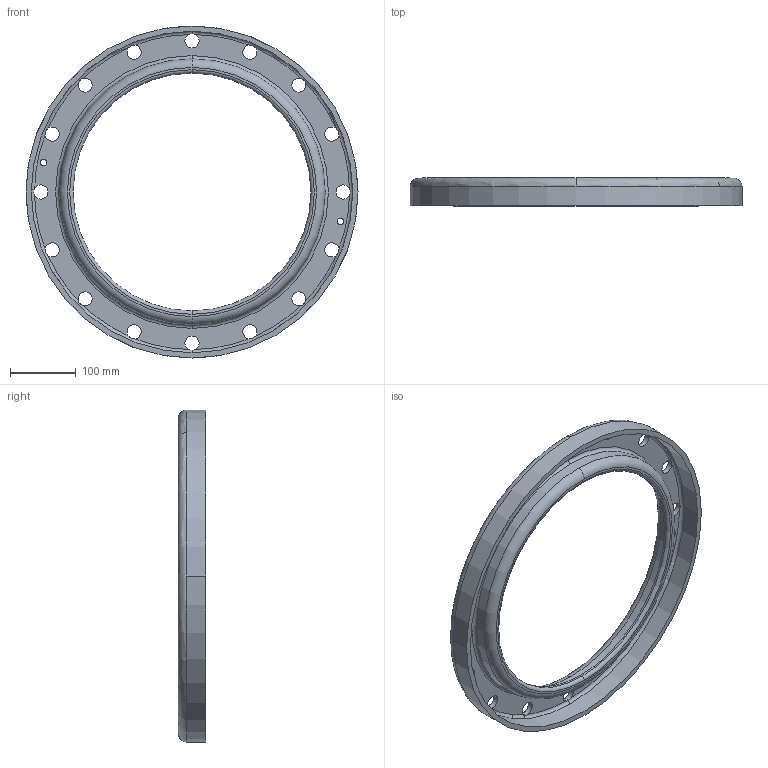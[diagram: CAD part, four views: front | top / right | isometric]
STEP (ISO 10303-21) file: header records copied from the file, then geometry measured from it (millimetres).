
FILE_DESCRIPTION(('STEP AP214'),'1');
FILE_NAME('Losflansch-DN350.stp','2023-07-13T07:27:03',(' '),(' '),'Spatial InterOp 3D',' ',' ');
FILE_SCHEMA(('automotive_design'));
Length unit declared in the file: millimetre
Products named in the file (2): 3D-Arbeitsebene
Assembly tree (1 placements, depth 2):
  3D-Arbeitsebene
    3D-Arbeitsebene
Bounding box: 505 x 42.5 x 505 mm (x, y, z)
Volume: 1368292.2 mm3; surface area: 372058.4 mm2
Topology: 1 solids, 1 shells, 65 faces, 277 edges, 185 vertices
Faces by surface type: cylinder 46, torus 14, plane 5
Entity records: 4139 total; most frequent: CARTESIAN_POINT 1203, ORIENTED_EDGE 554, DIRECTION 514, EDGE_CURVE 277, AXIS2_PLACEMENT_3D 234, VERTEX_POINT 185, CIRCLE 167, EDGE_LOOP 74
